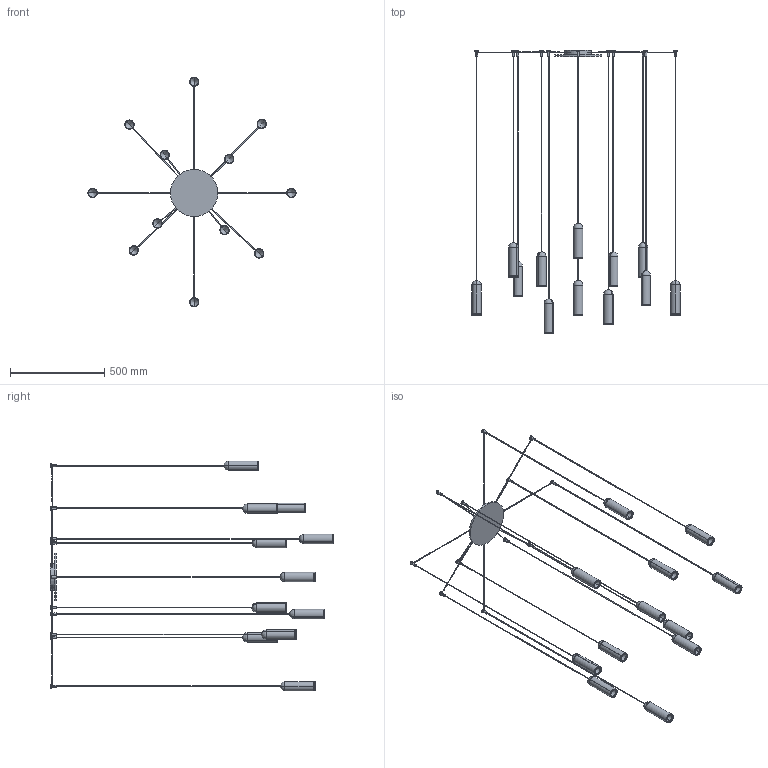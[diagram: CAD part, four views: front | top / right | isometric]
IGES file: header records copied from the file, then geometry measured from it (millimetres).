
Start section: SolidWorks IGES file using analytic representation for surfaces
Global section: file name: Y:\eforma\TECNICO\SOLIDWORKS\E-FORMA\09-LAMPADE\NANUM\02 parts\NANC2-00-NANUM_12 sospensione.IGS; native system: SolidWorks 2022; preprocessor: SolidWorks 2022; author: eforma.tech; date: 250521.111901; units: millimetre
Bounding box: 1103 x 1504.5 x 1218 mm (x, y, z)
Volume: 1964507 mm3; surface area: 1085515.4 mm2
Topology: 37 solids, 37 shells, 455 faces, 889 edges, 509 vertices
Faces by surface type: revolution 358, plane 97
